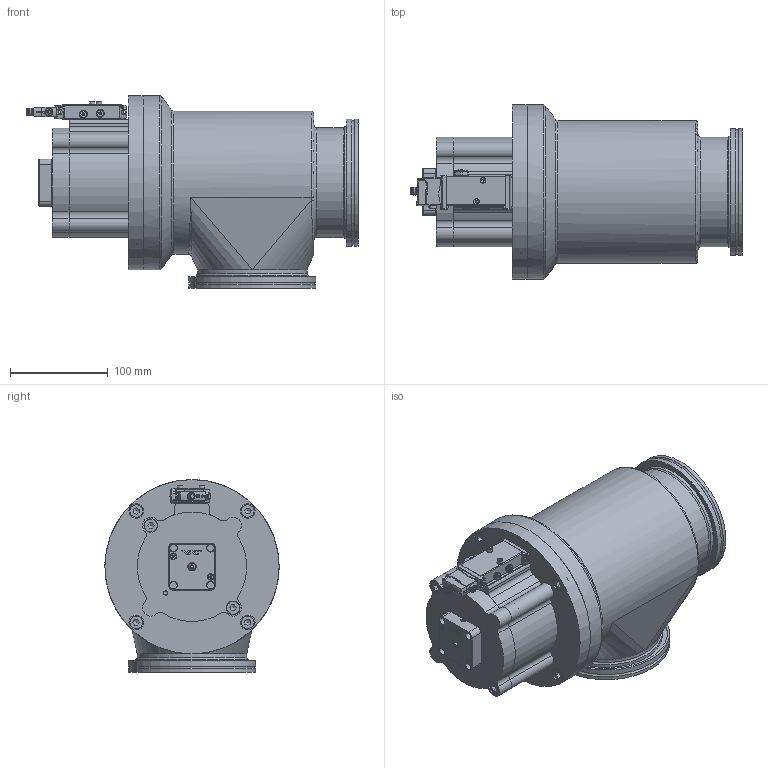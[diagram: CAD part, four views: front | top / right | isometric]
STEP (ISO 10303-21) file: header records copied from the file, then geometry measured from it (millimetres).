
FILE_DESCRIPTION(/* description */ (''),/* implementation_level */ '2;1');
FILE_NAME(/* name */ '1306098352_203.stp',/* time_stamp */ '2014-04-15T09:56:21+02:00',/* author */ (''),/* organization */ (''),/* preprocessor_version */ 'ST-DEVELOPER v11',/* originating_system */ 'SIEMENS PLM Software NX 7.5',/* authorisation */ '');
FILE_SCHEMA (('AP203_CONFIGURATION_CONTROLLED_3D_DESIGN_OF_MECHANICAL_PARTS_AND_ASSEMBLIES_MIM_LF'));
Length unit declared in the file: millimetre
Products named in the file (20): 233359; 236204_1.1; 366217; 568561; 571495; n-6134-404.1; n-6005-429.1; 518957_18317ID; n-6121-026.2; 517625_18323ID; 224847.1; 543750; 542372; 228777; 476060; 239983.3; 573596_MODEL; 518946_MODEL; 542323_MODEL; 577326
Assembly tree (26 placements, depth 3):
  577326
    476060
    228777  x4
    542372
    542323_MODEL
      517625_18323ID
      n-6121-026.2
    518946_MODEL
      518957_18317ID
    543750
    573596_MODEL
      n-6005-429.1  x2
      n-6134-404.1  x2
      571495
      568561
      366217
    239983.3
      236204_1.1  x2
      233359
    224847.1  x2
Bounding box: 339.25 x 178 x 197 mm (x, y, z)
Volume: 1867271.8 mm3; surface area: 467055.3 mm2
Topology: 38 solids, 45 shells, 1482 faces, 3662 edges, 2349 vertices
Faces by surface type: plane 788, cylinder 436, cone 151, torus 58, bspline 35, extrusion 8, sphere 6
Full cylindrical faces by diameter (mm): 1 x2, 2.46 x2, 2.5 x7, 2.6 x2, 3 x10, 3.2 x4, 3.8 x1, 3.85 x1, 4 x1, 4.2 x2, 4.5 x1, 5.5 x2, 5.6 x2, 5.8 x1, 6 x3, 6.2 x2, 6.5 x2, 6.66 x6, 6.7 x6, 6.8 x8, 6.9 x1, 7.2 x1, 7.4 x3, 8 x16, 8.1 x1, 8.15 x2, 8.3 x6, 8.4 x1, 8.566 x1, 9 x4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
Entity records: 49764 total; most frequent: CARTESIAN_POINT 10909, DIRECTION 6681, ORIENTED_EDGE 6206, EDGE_CURVE 3103, AXIS2_PLACEMENT_3D 2515, VERTEX_POINT 2124, EDGE_LOOP 1773, VECTOR 1651
